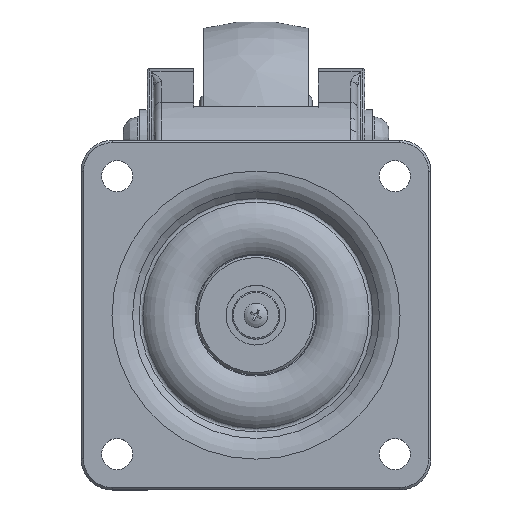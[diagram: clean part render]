
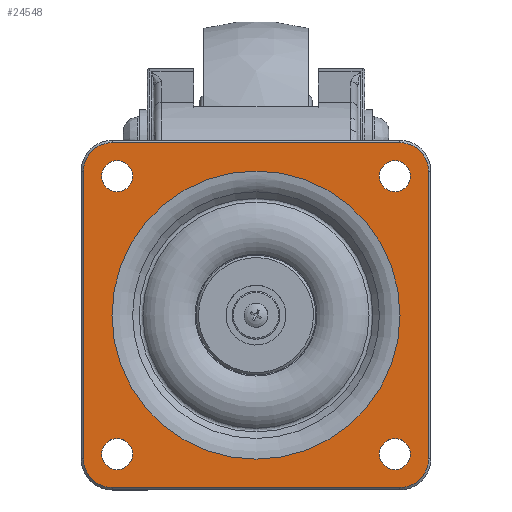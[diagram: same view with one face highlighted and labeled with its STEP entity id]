
A CAD part, top view. The second image highlights one B-rep face of the part: STEP entity #24548.
In plain terms, the highlighted planar face has unit normal (0, 0, 1).
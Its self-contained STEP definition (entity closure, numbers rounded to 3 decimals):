
#23730=CARTESIAN_POINT('',(-39.48,-28.391,73.273));
#23731=VERTEX_POINT('',#23730);
#23732=CARTESIAN_POINT('',(-36.23,-28.391,73.273));
#23733=DIRECTION('',(0.0,0.0,-1.0));
#23734=DIRECTION('',(-1.0,0.0,0.0));
#23735=AXIS2_PLACEMENT_3D('',#23732,#23733,#23734);
#23736=CIRCLE('',#23735,3.25);
#23737=EDGE_CURVE('',#23731,#23731,#23736,.T.);
#23758=CARTESIAN_POINT('',(-97.48,-28.391,73.273));
#23759=VERTEX_POINT('',#23758);
#23760=CARTESIAN_POINT('',(-94.23,-28.391,73.273));
#23761=DIRECTION('',(0.0,0.0,-1.0));
#23762=DIRECTION('',(-1.0,0.0,0.0));
#23763=AXIS2_PLACEMENT_3D('',#23760,#23761,#23762);
#23764=CIRCLE('',#23763,3.25);
#23765=EDGE_CURVE('',#23759,#23759,#23764,.T.);
#23807=CARTESIAN_POINT('',(-97.48,29.609,73.273));
#23808=VERTEX_POINT('',#23807);
#23809=CARTESIAN_POINT('',(-94.23,29.609,73.273));
#23810=DIRECTION('',(0.0,0.0,-1.0));
#23811=DIRECTION('',(-1.0,0.0,0.0));
#23812=AXIS2_PLACEMENT_3D('',#23809,#23810,#23811);
#23813=CIRCLE('',#23812,3.25);
#23814=EDGE_CURVE('',#23808,#23808,#23813,.T.);
#24232=CARTESIAN_POINT('',(-35.23,36.609,73.273));
#24233=VERTEX_POINT('',#24232);
#24240=CARTESIAN_POINT('',(-29.23,30.609,73.273));
#24241=VERTEX_POINT('',#24240);
#24242=CARTESIAN_POINT('',(-35.23,30.609,73.273));
#24243=DIRECTION('',(0.,0.,-1.0));
#24244=DIRECTION('',(0.707,0.707,0.));
#24245=AXIS2_PLACEMENT_3D('',#24242,#24243,#24244);
#24246=CIRCLE('',#24245,6.);
#24247=EDGE_CURVE('',#24233,#24241,#24246,.T.);
#24266=CARTESIAN_POINT('',(-95.23,36.609,73.273));
#24267=VERTEX_POINT('',#24266);
#24274=CARTESIAN_POINT('',(-95.23,36.609,73.273));
#24275=DIRECTION('',(1.0,0.0,0.0));
#24276=VECTOR('',#24275,60.);
#24277=LINE('',#24274,#24276);
#24278=EDGE_CURVE('',#24267,#24233,#24277,.T.);
#24295=CARTESIAN_POINT('',(-29.23,-29.391,73.273));
#24296=VERTEX_POINT('',#24295);
#24305=CARTESIAN_POINT('',(-29.23,30.609,73.273));
#24306=DIRECTION('',(0.0,-1.0,0.0));
#24307=VECTOR('',#24306,60.);
#24308=LINE('',#24305,#24307);
#24309=EDGE_CURVE('',#24241,#24296,#24308,.T.);
#24321=CARTESIAN_POINT('',(-101.23,30.609,73.273));
#24322=VERTEX_POINT('',#24321);
#24329=CARTESIAN_POINT('',(-95.23,30.609,73.273));
#24330=DIRECTION('',(0.,0.,-1.0));
#24331=DIRECTION('',(-0.707,0.707,0.));
#24332=AXIS2_PLACEMENT_3D('',#24329,#24330,#24331);
#24333=CIRCLE('',#24332,6.);
#24334=EDGE_CURVE('',#24322,#24267,#24333,.T.);
#24352=CARTESIAN_POINT('',(-35.23,-35.391,73.273));
#24353=VERTEX_POINT('',#24352);
#24362=CARTESIAN_POINT('',(-35.23,-29.391,73.273));
#24363=DIRECTION('',(0.,0.,-1.0));
#24364=DIRECTION('',(0.707,-0.707,0.));
#24365=AXIS2_PLACEMENT_3D('',#24362,#24363,#24364);
#24366=CIRCLE('',#24365,6.);
#24367=EDGE_CURVE('',#24296,#24353,#24366,.T.);
#24379=CARTESIAN_POINT('',(-101.23,-29.391,73.273));
#24380=VERTEX_POINT('',#24379);
#24387=CARTESIAN_POINT('',(-101.23,-29.391,73.273));
#24388=DIRECTION('',(0.0,1.0,0.0));
#24389=VECTOR('',#24388,60.);
#24390=LINE('',#24387,#24389);
#24391=EDGE_CURVE('',#24380,#24322,#24390,.T.);
#24408=CARTESIAN_POINT('',(-95.23,-35.391,73.273));
#24409=VERTEX_POINT('',#24408);
#24418=CARTESIAN_POINT('',(-35.23,-35.391,73.273));
#24419=DIRECTION('',(-1.0,0.0,0.0));
#24420=VECTOR('',#24419,60.);
#24421=LINE('',#24418,#24420);
#24422=EDGE_CURVE('',#24353,#24409,#24421,.T.);
#24441=CARTESIAN_POINT('',(-95.23,-29.391,73.273));
#24442=DIRECTION('',(0.,0.,-1.0));
#24443=DIRECTION('',(-0.707,-0.707,0.));
#24444=AXIS2_PLACEMENT_3D('',#24441,#24442,#24443);
#24445=CIRCLE('',#24444,6.);
#24446=EDGE_CURVE('',#24409,#24380,#24445,.T.);
#24502=CARTESIAN_POINT('',(-65.23,43.654,73.273));
#24503=DIRECTION('',(0.0,0.0,1.0));
#24504=DIRECTION('',(-1.0,0.0,0.0));
#24505=AXIS2_PLACEMENT_3D('',#24502,#24503,#24504);
#24506=PLANE('',#24505);
#24507=ORIENTED_EDGE('',*,*,#24247,.F.);
#24508=ORIENTED_EDGE('',*,*,#24278,.F.);
#24509=ORIENTED_EDGE('',*,*,#24334,.F.);
#24510=ORIENTED_EDGE('',*,*,#24391,.F.);
#24511=ORIENTED_EDGE('',*,*,#24446,.F.);
#24512=ORIENTED_EDGE('',*,*,#24422,.F.);
#24513=ORIENTED_EDGE('',*,*,#24367,.F.);
#24514=ORIENTED_EDGE('',*,*,#24309,.F.);
#24515=EDGE_LOOP('',(#24507,#24508,#24509,#24510,#24511,#24512,#24513,#24514));
#24516=FACE_OUTER_BOUND('',#24515,.T.);
#24517=ORIENTED_EDGE('',*,*,#23737,.T.);
#24518=EDGE_LOOP('',(#24517));
#24519=FACE_BOUND('',#24518,.T.);
#24520=ORIENTED_EDGE('',*,*,#23765,.T.);
#24521=EDGE_LOOP('',(#24520));
#24522=FACE_BOUND('',#24521,.T.);
#24523=ORIENTED_EDGE('',*,*,#23814,.T.);
#24524=EDGE_LOOP('',(#24523));
#24525=FACE_BOUND('',#24524,.T.);
#24526=CARTESIAN_POINT('',(-65.23,30.676,73.273));
#24527=VERTEX_POINT('',#24526);
#24528=CARTESIAN_POINT('',(-65.23,0.609,73.273));
#24529=DIRECTION('',(0.0,0.0,1.0));
#24530=DIRECTION('',(0.0,1.0,0.0));
#24531=AXIS2_PLACEMENT_3D('',#24528,#24529,#24530);
#24532=CIRCLE('',#24531,30.067);
#24533=EDGE_CURVE('',#24527,#24527,#24532,.T.);
#24534=ORIENTED_EDGE('',*,*,#24533,.F.);
#24535=EDGE_LOOP('',(#24534));
#24536=FACE_BOUND('',#24535,.T.);
#24537=CARTESIAN_POINT('',(-39.48,29.609,73.273));
#24538=VERTEX_POINT('',#24537);
#24539=CARTESIAN_POINT('',(-36.23,29.609,73.273));
#24540=DIRECTION('',(0.0,0.0,-1.0));
#24541=DIRECTION('',(-1.0,0.0,0.0));
#24542=AXIS2_PLACEMENT_3D('',#24539,#24540,#24541);
#24543=CIRCLE('',#24542,3.25);
#24544=EDGE_CURVE('',#24538,#24538,#24543,.T.);
#24545=ORIENTED_EDGE('',*,*,#24544,.T.);
#24546=EDGE_LOOP('',(#24545));
#24547=FACE_BOUND('',#24546,.T.);
#24548=ADVANCED_FACE('',(#24516,#24519,#24522,#24525,#24536,#24547),#24506,.T.);
